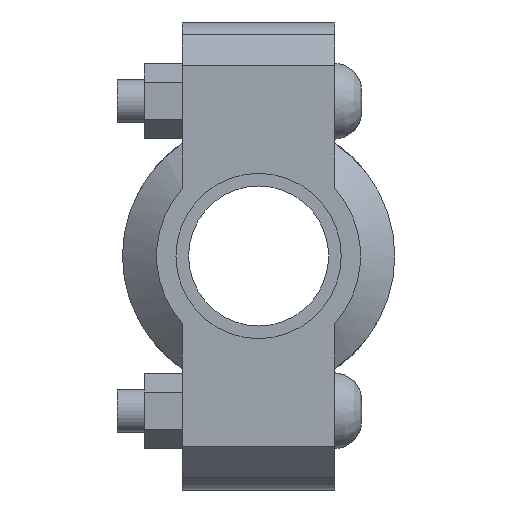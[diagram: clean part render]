
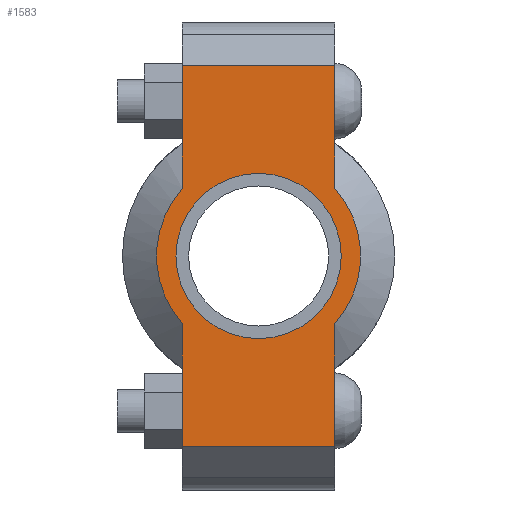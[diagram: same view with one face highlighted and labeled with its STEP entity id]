
A CAD part, left-side view. The second image highlights one B-rep face of the part: STEP entity #1583.
In plain terms, the highlighted planar face has unit normal (-1, 0, 0) as drawn and (0, 0, 1) by its records, which use the part's own axes.
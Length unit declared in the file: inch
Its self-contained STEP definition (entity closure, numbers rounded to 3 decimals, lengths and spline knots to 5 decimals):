
#194=LINE('',#2721,#289);
#209=LINE('',#2780,#304);
#217=LINE('',#2810,#312);
#219=LINE('',#2813,#314);
#220=LINE('',#2818,#315);
#221=LINE('',#2819,#316);
#289=VECTOR('',#2191,0.3937);
#304=VECTOR('',#2226,0.3937);
#312=VECTOR('',#2246,0.3937);
#314=VECTOR('',#2250,0.3937);
#315=VECTOR('',#2255,0.3937);
#316=VECTOR('',#2256,0.3937);
#376=FACE_BOUND('',#535,.T.);
#436=FACE_OUTER_BOUND('',#534,.T.);
#534=EDGE_LOOP('',(#1278,#1279,#1280,#1281,#1282,#1283,#1284,#1285));
#535=EDGE_LOOP('',(#1286));
#640=CIRCLE('',#1846,1.172);
#641=CIRCLE('',#1847,1.172);
#642=CIRCLE('',#1848,0.95);
#749=VERTEX_POINT('',#2718);
#750=VERTEX_POINT('',#2720);
#771=VERTEX_POINT('',#2775);
#772=VERTEX_POINT('',#2779);
#781=VERTEX_POINT('',#2805);
#782=VERTEX_POINT('',#2809);
#783=VERTEX_POINT('',#2815);
#784=VERTEX_POINT('',#2817);
#785=VERTEX_POINT('',#2821);
#919=EDGE_CURVE('',#750,#749,#194,.T.);
#944=EDGE_CURVE('',#772,#771,#209,.T.);
#957=EDGE_CURVE('',#782,#781,#217,.T.);
#959=EDGE_CURVE('',#782,#749,#219,.T.);
#960=EDGE_CURVE('',#781,#783,#640,.T.);
#961=EDGE_CURVE('',#783,#784,#220,.T.);
#962=EDGE_CURVE('',#772,#784,#221,.T.);
#963=EDGE_CURVE('',#771,#750,#641,.T.);
#964=EDGE_CURVE('',#785,#785,#642,.T.);
#1278=ORIENTED_EDGE('',*,*,#959,.F.);
#1279=ORIENTED_EDGE('',*,*,#957,.T.);
#1280=ORIENTED_EDGE('',*,*,#960,.T.);
#1281=ORIENTED_EDGE('',*,*,#961,.T.);
#1282=ORIENTED_EDGE('',*,*,#962,.F.);
#1283=ORIENTED_EDGE('',*,*,#944,.T.);
#1284=ORIENTED_EDGE('',*,*,#963,.T.);
#1285=ORIENTED_EDGE('',*,*,#919,.T.);
#1286=ORIENTED_EDGE('',*,*,#964,.T.);
#1435=PLANE('',#1845);
#1583=ADVANCED_FACE('',(#436,#376),#1435,.T.);
#1845=AXIS2_PLACEMENT_3D('',#2814,#2251,#2252);
#1846=AXIS2_PLACEMENT_3D('',#2816,#2253,#2254);
#1847=AXIS2_PLACEMENT_3D('',#2820,#2257,#2258);
#1848=AXIS2_PLACEMENT_3D('',#2822,#2259,#2260);
#2191=DIRECTION('',(1.,0.,0.));
#2226=DIRECTION('',(1.,0.,0.));
#2246=DIRECTION('',(-1.,0.,0.));
#2250=DIRECTION('',(0.,-1.,0.));
#2251=DIRECTION('center_axis',(0.,0.,1.));
#2252=DIRECTION('ref_axis',(-1.,0.,0.));
#2253=DIRECTION('center_axis',(0.,0.,1.));
#2254=DIRECTION('ref_axis',(1.,0.,0.));
#2255=DIRECTION('',(-1.,0.,0.));
#2256=DIRECTION('',(0.,1.,0.));
#2257=DIRECTION('center_axis',(0.,0.,1.));
#2258=DIRECTION('ref_axis',(1.,0.,0.));
#2259=DIRECTION('center_axis',(0.,0.,-1.));
#2260=DIRECTION('ref_axis',(1.,0.,0.));
#2718=CARTESIAN_POINT('',(2.19,-0.875,0.94));
#2720=CARTESIAN_POINT('',(0.77972,-0.875,0.94));
#2721=CARTESIAN_POINT('',(-2.69,-0.875,0.94));
#2775=CARTESIAN_POINT('',(-0.77972,-0.875,0.94));
#2779=CARTESIAN_POINT('',(-2.19,-0.875,0.94));
#2780=CARTESIAN_POINT('',(-2.69,-0.875,0.94));
#2805=CARTESIAN_POINT('',(0.77972,0.875,0.94));
#2809=CARTESIAN_POINT('',(2.19,0.875,0.94));
#2810=CARTESIAN_POINT('',(2.69,0.875,0.94));
#2813=CARTESIAN_POINT('',(2.19,-0.4375,0.94));
#2814=CARTESIAN_POINT('Origin',(0.,0.,
0.94));
#2815=CARTESIAN_POINT('',(-0.77972,0.875,0.94));
#2816=CARTESIAN_POINT('Origin',(0.,0.,0.94));
#2817=CARTESIAN_POINT('',(-2.19,0.875,0.94));
#2818=CARTESIAN_POINT('',(2.69,0.875,0.94));
#2819=CARTESIAN_POINT('',(-2.19,0.4375,0.94));
#2820=CARTESIAN_POINT('Origin',(0.,0.,0.94));
#2821=CARTESIAN_POINT('',(-0.95,0.,0.94));
#2822=CARTESIAN_POINT('Origin',(0.,0.,0.94));
